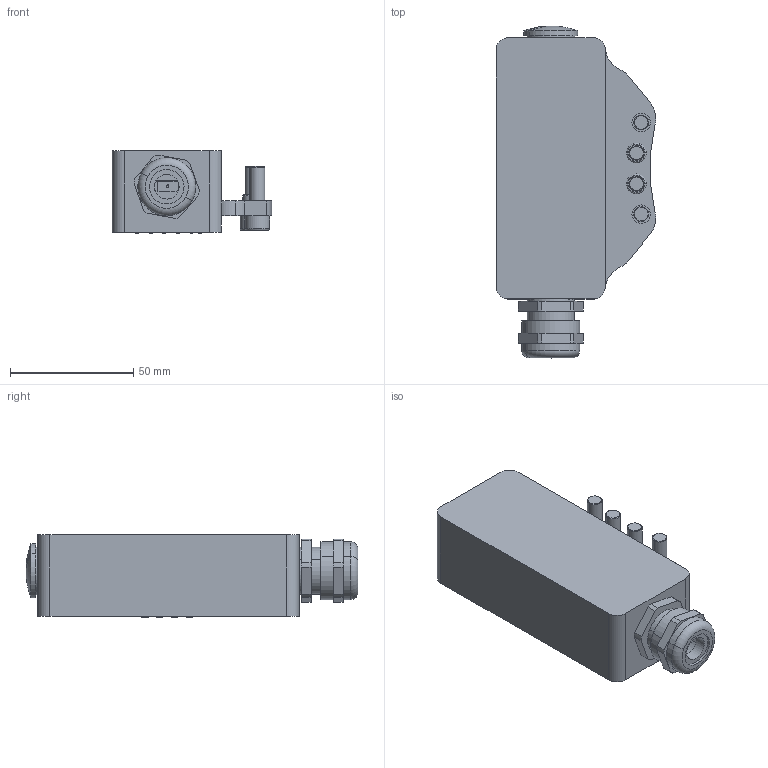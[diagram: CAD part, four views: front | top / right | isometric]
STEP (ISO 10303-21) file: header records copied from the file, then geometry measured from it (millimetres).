
FILE_DESCRIPTION (( 'STEP AP203' ), '1' );
FILE_NAME ('QCSM-CP-25R（可外发）.STEP', '2024-01-02T01:55:22', ( '' ), ( '' ), 'SwSTEP 2.0', 'SolidWorks 2022', '' );
FILE_SCHEMA (( 'CONFIG_CONTROL_DESIGN' ));
Products named in the file (1): QCSM-CP-25R（可外发）
Bounding box: 64.77 x 134.62 x 33.38 mm (x, y, z)
Volume: 122686.7 mm3; surface area: 51374.7 mm2
Topology: 1 solids, 71 shells, 2387 faces, 5888 edges, 3692 vertices
Faces by surface type: plane 1101, cylinder 729, cone 311, bspline 182, torus 64
Entity records: 87942 total; most frequent: CARTESIAN_POINT 31960, ORIENTED_EDGE 11560, DIRECTION 11406, EDGE_CURVE 5780, AXIS2_PLACEMENT_3D 4044, VERTEX_POINT 3692, LINE 3318, VECTOR 3318
